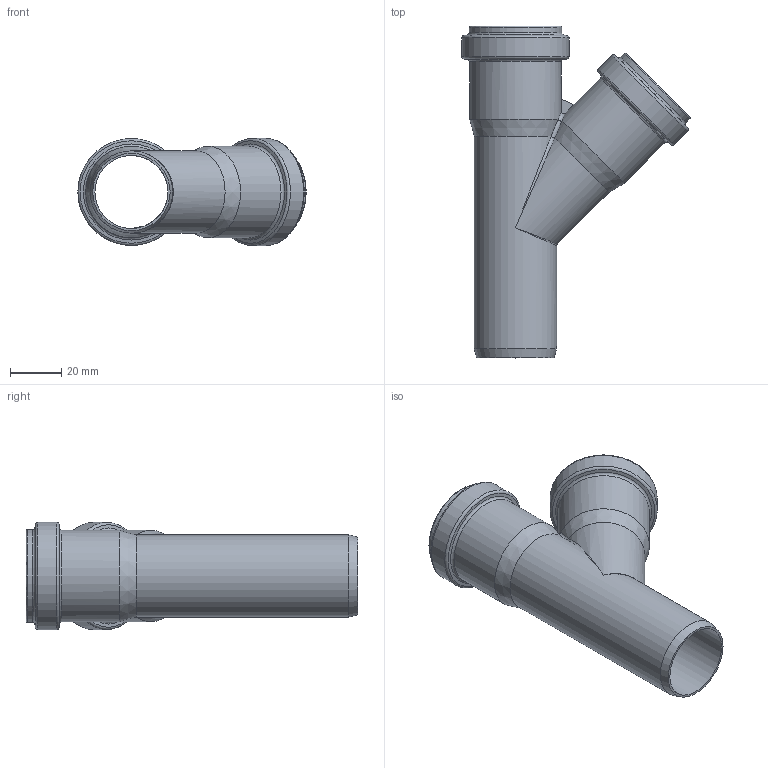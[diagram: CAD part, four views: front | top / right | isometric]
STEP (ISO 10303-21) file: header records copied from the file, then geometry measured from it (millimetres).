
FILE_DESCRIPTION(/* description */ (''),/* implementation_level */ '2;1');
FILE_NAME(/* name */ '559600z.stp',/* time_stamp */ '2026-01-09T11:08:56+01:00',/* author */ ('corinna'),/* organization */ (''),/* preprocessor_version */ 'ST-DEVELOPER v20',/* originating_system */ 'Autodesk Inventor 2024',/* authorisation */ '');
FILE_SCHEMA (('AUTOMOTIVE_DESIGN { 1 0 10303 214 3 1 1 }'));
Length unit declared in the file: millimetre
Products named in the file (1): 559600z
Bounding box: 89.45 x 130 x 42 mm (x, y, z)
Volume: 33761.8 mm3; surface area: 39384.1 mm2
Topology: 1 solids, 1 shells, 66 faces, 187 edges, 120 vertices
Faces by surface type: torus 20, cylinder 18, cone 13, plane 8, bspline 7
Full cylindrical faces by diameter (mm): 28.6 x2, 32.2 x1, 32.6 x2, 33 x4, 35.8 x2, 36.2 x2, 38.8 x2, 42 x2
Entity records: 2820 total; most frequent: CARTESIAN_POINT 1007, DIRECTION 415, ORIENTED_EDGE 366, AXIS2_PLACEMENT_3D 190, EDGE_CURVE 183, VERTEX_POINT 120, CIRCLE 112, EDGE_LOOP 71
